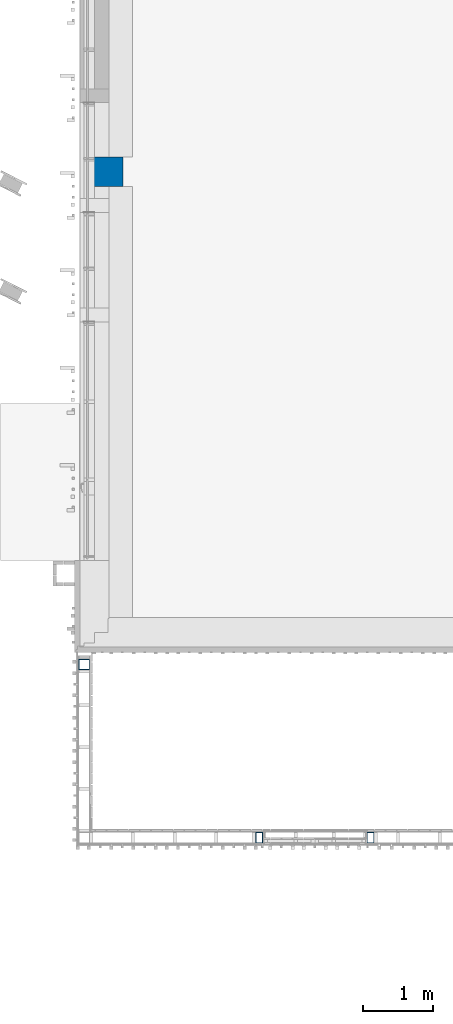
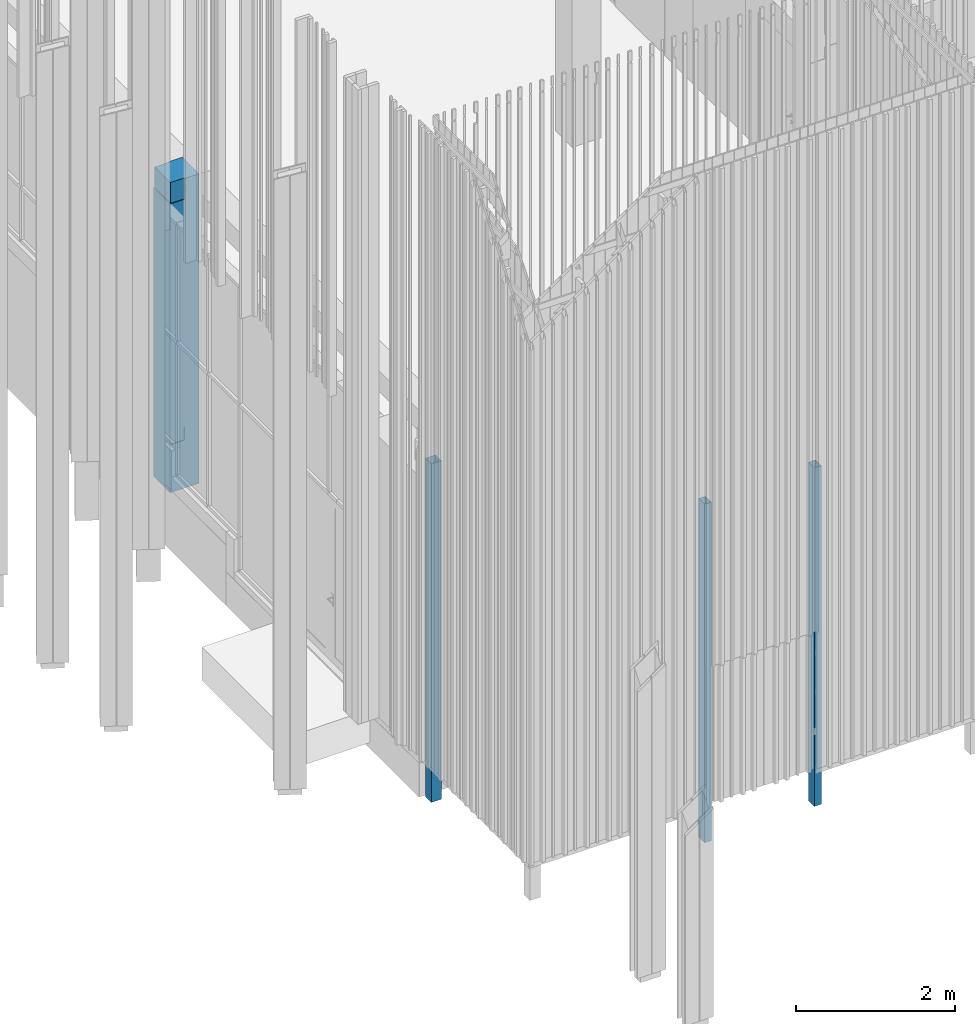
# One storey, part 73 of 390: 4 columns.
"""IFC2X3 building model written with IfcOpenShell, lengths in millimetres."""

import ifcopenshell
import ifcopenshell.guid

model = None  # the IFC model being written
_history = None  # IfcOwnerHistory: only IFC2X3 demands one
_inside = {}  # id of a spatial element -> (the spatial element, [elements in it])
_under = {}  # id of a project, library or spatial element -> (it, [spatial elements below it])
_declared = {}  # id of a project -> (the project, [libraries it declares])
_typed = {}  # id of a type object -> (the type object, [elements of that type])
_made_of = {}  # id of a material, layer set ... -> (it, [elements and type objects made of it])


def new_model(schema):
    """Start an empty IFC model of exactly this schema.

    Asked for "IFC4X3", IfcOpenShell would pick the latest addendum, in which some entities
    have other attributes; the version numbers below select the first issue.
    IFC2X3 requires an IfcOwnerHistory on every rooted entity: one is made here for all.
    """
    global model, _history
    if schema == "IFC4X3":
        model = ifcopenshell.file(schema_version=(4, 3, 0, 0))
    else:
        model = ifcopenshell.file(schema=schema)
    _inside.clear()
    _under.clear()
    _declared.clear()
    _typed.clear()
    _made_of.clear()
    _history = None
    if model.schema == "IFC2X3":
        org = make("IfcOrganization", Name="unknown")
        user = make(
            "IfcPersonAndOrganization",
            ThePerson=make("IfcPerson", FamilyName="unknown"),
            TheOrganization=org,
        )
        app = make(
            "IfcApplication",
            ApplicationDeveloper=org,
            Version="unknown",
            ApplicationFullName="unknown",
            ApplicationIdentifier="unknown",
        )
        _history = make(
            "IfcOwnerHistory",
            OwningUser=user,
            OwningApplication=app,
            ChangeAction="ADDED",
            CreationDate=0,
        )
    return model


def make(cls, **values):
    """One entity of the class cls with the attributes given. An attribute that is None is left unset."""
    return model.create_entity(
        cls, **{name: value for name, value in values.items() if value is not None}
    )


def entity(cls, *values):
    """Any entity or typed value of the class cls, its attributes in the order of the schema. None: left unset."""
    e = model.create_entity(cls)
    for i, value in enumerate(values):
        if value is not None:
            e[i] = value
    return e


def rooted(cls, **values):
    """An entity with a GlobalId (a new one), such as an element, a storey or a relation."""
    return make(cls, GlobalId=ifcopenshell.guid.new(), OwnerHistory=_history, **values)


def si_unit(unit_type, name, prefix=None):
    """IfcSIUnit, for example si_unit("LENGTHUNIT", "METRE", prefix="MILLI")."""
    return make("IfcSIUnit", UnitType=unit_type, Prefix=prefix, Name=name)


def converted_unit(unit_type, name, factor, base, dimensions=None, offset=None):
    """IfcConversionBasedUnit, such as the inch: factor (a typed value) times the base unit."""
    return make(
        "IfcConversionBasedUnit"
        if offset is None
        else "IfcConversionBasedUnitWithOffset",
        ConversionOffset=offset,
        Dimensions=None
        if dimensions is None
        else entity("IfcDimensionalExponents", *dimensions),
        UnitType=unit_type,
        Name=name,
        ConversionFactor=make(
            "IfcMeasureWithUnit", ValueComponent=factor, UnitComponent=base
        ),
    )


def derived_unit(unit_type, elements):
    """IfcDerivedUnit: a product of units, each with its exponent."""
    return make(
        "IfcDerivedUnit",
        Elements=[
            make("IfcDerivedUnitElement", Unit=unit, Exponent=power)
            for unit, power in elements
        ],
        UnitType=unit_type,
    )


def money_unit(currency):
    """IfcMonetaryUnit."""
    return make("IfcMonetaryUnit", Currency=currency)


def assignment(units):
    """IfcUnitAssignment: the units of a project."""
    return None if units is None else make("IfcUnitAssignment", Units=units)


def point(xyz):
    """IfcCartesianPoint."""
    return None if xyz is None else make("IfcCartesianPoint", Coordinates=xyz)


def direction(xyz):
    """IfcDirection."""
    return None if xyz is None else make("IfcDirection", DirectionRatios=xyz)


def frame(location, z_axis=None, x_axis=None):
    """IfcAxis2Placement3D, a coordinate frame: its origin and axes. An axis left out is left unset."""
    return make(
        "IfcAxis2Placement3D",
        Location=point(location),
        Axis=direction(z_axis),
        RefDirection=direction(x_axis),
    )


def origin_with_axes():
    """The frame at (0, 0, 0) with the z axis (0, 0, 1) and the x axis (1, 0, 0) written out."""
    return frame((0.0, 0.0, 0.0), z_axis=(0.0, 0.0, 1.0), x_axis=(1.0, 0.0, 0.0))


def place(relative_to, where):
    """IfcLocalPlacement: puts the frame where relative to a parent placement (None: the world)."""
    return make(
        "IfcLocalPlacement", PlacementRelTo=relative_to, RelativePlacement=where
    )


def context(
    kind, dimensions, precision=None, world=None, true_north=None, identifier=None
):
    """IfcGeometricRepresentationContext, for example the 3D "Model" context."""
    return make(
        "IfcGeometricRepresentationContext",
        ContextIdentifier=identifier,
        ContextType=kind,
        CoordinateSpaceDimension=dimensions,
        Precision=precision,
        WorldCoordinateSystem=world,
        TrueNorth=true_north,
    )


def subcontext(parent, identifier, kind, view, scale=None):
    """IfcGeometricRepresentationSubContext, for example "Body" below "Model"."""
    return make(
        "IfcGeometricRepresentationSubContext",
        ContextIdentifier=identifier,
        ContextType=kind,
        ParentContext=parent,
        TargetScale=scale,
        TargetView=view,
    )


def project(units=None, contexts=None):
    """IfcProject with its units and contexts."""
    return rooted(
        "IfcProject",
        Name="project",
        RepresentationContexts=contexts,
        UnitsInContext=assignment(units),
    )


def spatial(cls, under=None, at=None, **own):
    """A site, building, storey or space (cls), placed at a placement, below another one or the project."""
    s = rooted(cls, ObjectPlacement=at, **own)
    if under is not None:
        _under.setdefault(under.id(), (under, []))[1].append(s)
    return s


def faces_of(points, faces, orient=None, outer=None):
    """IfcFace entities. A face is a list of loops; a loop is a list of indices into points, from 0.

    orient and outer hold one flag for each loop. By default every Orientation is true, the
    first loop of a face is its IfcFaceOuterBound and the others are IfcFaceBound.
    """
    made = []
    for i, loops in enumerate(faces):
        bounds = []
        for j, loop in enumerate(loops):
            is_outer = j == 0 if outer is None else outer[i][j]
            bounds.append(
                make(
                    "IfcFaceOuterBound" if is_outer else "IfcFaceBound",
                    Bound=make("IfcPolyLoop", Polygon=[points[k] for k in loop]),
                    Orientation=True if orient is None else orient[i][j],
                )
            )
        made.append(make("IfcFace", Bounds=bounds))
    return made


def faceted_brep(points, faces, orient=None, outer=None, voids=None):
    """IfcFacetedBrep: a solid bounded by flat faces; with voids (closed shells), ...WithVoids."""
    shared = [point(p) for p in points]
    hull = make("IfcClosedShell", CfsFaces=faces_of(shared, faces, orient, outer))
    if voids is None:
        return make("IfcFacetedBrep", Outer=hull)
    return make(
        "IfcFacetedBrepWithVoids",
        Outer=hull,
        Voids=[
            make(cls, CfsFaces=faces_of(shared, fs, o, b)) for cls, fs, o, b in voids
        ],
    )


def shape(context_of_items, identifier, shape_type, items):
    """IfcShapeRepresentation: the items that make up one representation, for example the "Body"."""
    return make(
        "IfcShapeRepresentation",
        ContextOfItems=context_of_items,
        RepresentationIdentifier=identifier,
        RepresentationType=shape_type,
        Items=items,
    )


def material(Name=None, Category=None):
    """IfcMaterial."""
    return make("IfcMaterial", Name=Name, Category=Category)


def material_list(materials):
    """IfcMaterialList."""
    return make("IfcMaterialList", Materials=materials)


def made_of(thing, what):
    """Note that an element or type object is made of a material, layer set ...; save() writes the relation."""
    if what is not None:
        _made_of.setdefault(what.id(), (what, []))[1].append(thing)
    return thing


def type_object(cls, material=None, **own):
    """A type object (cls), such as IfcWallType, which elements share."""
    return made_of(rooted(cls, **own), material)


def element(
    cls,
    number,
    at=None,
    inside=None,
    cuts=None,
    type_object=None,
    material=None,
    context=None,
    identifier="Body",
    shape_type=None,
    held_by="IfcProductDefinitionShape",
    body=None,
    shapes=None,
    **own,
):
    """One element of the class cls, such as IfcWall. Its Tag is "e" and its number.

    at: its placement. inside: the storey or other place that contains it. cuts: it is an
    opening in that element (IfcRelVoidsElement). A single representation is given by context,
    identifier, shape_type and body (its items); several are given by shapes. held_by: the class
    of the entity that holds the representations. save() writes the other relations.
    """
    e = rooted(cls, Tag="e%d" % number, ObjectPlacement=at, **own)
    if body is not None:
        shapes = [shape(context, identifier, shape_type, body)]
    if shapes is not None:
        e.Representation = make(held_by, Representations=shapes)
    if inside is not None:
        _inside.setdefault(inside.id(), (inside, []))[1].append(e)
    if cuts is not None:
        rooted(
            "IfcRelVoidsElement", RelatingBuildingElement=cuts, RelatedOpeningElement=e
        )
    if type_object is not None:
        _typed.setdefault(type_object.id(), (type_object, []))[1].append(e)
    return made_of(e, material)


def aggregate(whole, parts):
    """IfcRelAggregates: a whole, such as a stair, and the parts it consists of."""
    return rooted("IfcRelAggregates", RelatingObject=whole, RelatedObjects=parts)


def save(model, path):
    """Write the relations noted so far, then the file.

    IfcRelAggregates (storeys below a building ...), IfcRelContainedInSpatialStructure (elements
    in a storey), IfcRelDefinesByType, IfcRelAssociatesMaterial and IfcRelDeclares: one each for
    every whole, place, type object, material and project.
    """
    for whole, parts in _under.values():
        aggregate(whole, parts)
    for where, things in _inside.values():
        rooted(
            "IfcRelContainedInSpatialStructure",
            RelatedElements=things,
            RelatingStructure=where,
        )
    for kind, things in _typed.values():
        rooted("IfcRelDefinesByType", RelatedObjects=things, RelatingType=kind)
    for what, things in _made_of.values():
        rooted("IfcRelAssociatesMaterial", RelatedObjects=things, RelatingMaterial=what)
    for by, libraries in _declared.values():
        rooted("IfcRelDeclares", RelatingContext=by, RelatedDefinitions=libraries)
    model.write(path)


model = new_model("IFC2X3")

# Units and contexts
model_context = context("Model", 3, precision=1e-05, world=origin_with_axes(), true_north=direction((0.0, 1.0)))
body_context = subcontext(model_context, "Body", "Model", "MODEL_VIEW")
ifc_project = project(units=[si_unit("LENGTHUNIT", "METRE", prefix="MILLI"), si_unit("AREAUNIT", "SQUARE_METRE"), si_unit("VOLUMEUNIT", "CUBIC_METRE"), converted_unit("PLANEANGLEUNIT", "DEGREE", entity("IfcPlaneAngleMeasure", 0.0174532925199), si_unit("PLANEANGLEUNIT", "RADIAN"), dimensions=[0, 0, 0, 0, 0, 0, 0]), si_unit("SOLIDANGLEUNIT", "STERADIAN"), money_unit("EUR"), converted_unit("TIMEUNIT", "Year", entity("IfcTimeMeasure", 31556926.0), si_unit("TIMEUNIT", "SECOND"), dimensions=[0, 0, 1, 0, 0, 0, 0]), si_unit("MASSUNIT", "GRAM", prefix="KILO"), si_unit("THERMODYNAMICTEMPERATUREUNIT", "DEGREE_CELSIUS"), si_unit("LUMINOUSINTENSITYUNIT", "LUMEN"), si_unit("ENERGYUNIT", "JOULE", prefix="MEGA"), derived_unit("THERMALCONDUCTANCEUNIT", [(si_unit("POWERUNIT", "WATT"), 1), (si_unit("LENGTHUNIT", "METRE"), -1), (si_unit("THERMODYNAMICTEMPERATUREUNIT", "KELVIN"), -1)]), derived_unit("SPECIFICHEATCAPACITYUNIT", [(si_unit("ENERGYUNIT", "JOULE"), 1), (si_unit("MASSUNIT", "GRAM", prefix="KILO"), -1), (si_unit("THERMODYNAMICTEMPERATUREUNIT", "KELVIN"), -1)]), derived_unit("MASSDENSITYUNIT", [(si_unit("MASSUNIT", "GRAM", prefix="KILO"), 1), (si_unit("VOLUMEUNIT", "CUBIC_METRE"), -1)])], contexts=[model_context])

# Site, building, storey
site_placement = place(None, origin_with_axes())
site = spatial("IfcSite", under=ifc_project, at=site_placement, Name="Site", CompositionType="ELEMENT")
building_placement = place(site_placement, origin_with_axes())
building = spatial("IfcBuilding", under=site, at=building_placement, Name="Building", CompositionType="ELEMENT")
storey_placement = place(building_placement, origin_with_axes())
storey = spatial("IfcBuildingStorey", under=building, at=storey_placement, Name="1 korrus", CompositionType="ELEMENT", Elevation=0.0)

# Columns
ifc_material_1 = material(Name="Betoon - Konstuktsioon")
ifc_material_2 = material(Name="Krohv - Lubjakivi")
ifc_material_list = material_list([ifc_material_1, ifc_material_2])
column_type = type_object("IfcColumnType", Name="Post", PredefinedType="NOTDEFINED")
column_1_placement = place(storey_placement, frame((122899.999996, 52170.0000066, -20.0), z_axis=(0.0, 0.0, 1.0), x_axis=(1.0, -8.97950352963e-09, 0.0)))
element("IfcColumn", 1, at=column_1_placement, inside=storey, type_object=column_type, material=ifc_material_list, Name="Betoon - Konstuktsioon", ObjectType="Betoon - Konstuktsioon 400 x 400", context=body_context, shape_type="Brep", body=[
    faceted_brep([(-199.999998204, -200.000001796, 0.0), (200.000001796, -199.999998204, 0.0), (200.000001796, -199.999998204, 4764.99999985), (-199.999998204, -200.000001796, 4764.99999985), (-200.000001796, 199.999998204, 0.0), (199.999998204, 200.000001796, 0.0), (199.999998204, 200.000001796, 4764.99999985), (-200.000001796, 199.999998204, 4764.99999985)], [[[0, 1, 2, 3]], [[0, 4, 5, 1]], [[1, 5, 6, 2]], [[3, 2, 6, 7]], [[4, 0, 3, 7]], [[5, 4, 7, 6]]]),
    faceted_brep([(-199.99999644, -200.000001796, 4444.99965396), (3.55973384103e-06, -200.0, 4444.99965396), (3.55973384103e-06, -200.0, 4764.99999985), (200.000001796, -199.999998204, 4764.99999985), (200.000001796, -199.999998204, 0.0), (-199.999998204, -200.000001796, 0.0), (-199.999998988, -200.000001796, 740.0), (1.01229602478e-06, -200.0, 740.0), (1.01229602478e-06, -200.0, 940.0), (-199.999998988, -200.000001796, 940.0), (-200.000000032, 199.999998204, 4444.99965408), (-3.20596882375e-08, 200.0, 4444.99965408), (-1.21858079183e-07, 210.0, 4444.99965408), (-210.000001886, 209.999998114, 4444.99965207), (-209.999998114, -210.000001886, 4444.99965207), (3.64953223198e-06, -210.0, 4444.99965396), (3.64953223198e-06, -210.0, 4764.99999985), (-1.21858079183e-07, 210.0, 4764.99999985), (-3.20596882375e-08, 200.0, 4764.99999985), (199.999998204, 200.000001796, 4764.99999985), (210.000001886, -209.999998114, 4764.99999985), (209.999998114, 210.000001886, 4764.99999985), (199.999998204, 200.000001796, 0.0), (210.000001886, -209.999998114, 0.0), (-209.999998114, -210.000001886, 0.0), (-210.000001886, 209.999998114, 0.0), (209.999998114, 210.000001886, 0.0), (-200.000001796, 199.999998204, 0.0), (-200.000002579, 199.999998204, 740.0), (-200.000002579, 199.999998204, 940.0), (-199.999998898, -210.000001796, 740.0), (1.10209441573e-06, -210.0, 740.0), (1.10209441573e-06, -210.0, 940.0), (-199.999998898, -210.000001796, 940.0), (-2.57949750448e-06, 200.0, 940.0), (-2.57949750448e-06, 200.0, 740.0), (-200.000002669, 209.999998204, 740.0), (-2.66929589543e-06, 210.0, 740.0), (-2.66929589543e-06, 210.0, 940.0), (-200.000002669, 209.999998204, 940.0)], [[[0, 1, 2, 3, 4, 5, 6, 7, 8, 9]], [[10, 11, 12, 13, 14, 15, 1, 0]], [[16, 2, 1, 15]], [[17, 18, 19, 3, 2, 16, 20, 21]], [[19, 22, 4, 3]], [[23, 24, 25, 26], [27, 5, 4, 22]], [[10, 0, 9, 6, 5, 27, 28, 29]], [[7, 6, 30, 31]], [[8, 7, 31, 32]], [[9, 8, 32, 33]], [[11, 10, 29, 34, 35, 28, 27, 22, 19, 18]], [[18, 17, 12, 11]], [[12, 17, 21, 26, 25, 13], [36, 37, 38, 39]], [[14, 13, 25, 24]], [[15, 14, 24, 23, 20, 16], [30, 33, 32, 31]], [[20, 23, 26, 21]], [[6, 9, 33, 30]], [[36, 39, 29, 28]], [[39, 38, 34, 29]], [[38, 37, 35, 34]], [[37, 36, 28, 35]]]),
])
ifc_material_3 = material(Name="Teras (musta värvi)")
for number, where, z_axis, x_axis, name in (
    (2, (125069.99996, 42599.000112, -500.0), (0.0, 0.0, 1.0), (-1.0, 0.0, 0.0), "Post - teras - RHS:150x100x5"),
    (3, (126669.99996, 42599.000112, -500.0), (0.0, 0.0, 1.0), (-1.0, 0.0, 0.0), "Post - teras - RHS:150x100x5"),
):
    element("IfcColumn", number, at=place(storey_placement, frame(where, z_axis=z_axis, x_axis=x_axis)), inside=storey, type_object=column_type, material=ifc_material_3, Name=name, ObjectType="150x100x5", context=body_context, shape_type="Brep", body=[
        faceted_brep([(-50.0, -75.0, 5210.0), (-50.0, -75.0, 0.0), (50.0, -75.0, 0.0), (50.0, -75.0, 5210.0), (-50.0, 75.0, 5210.0), (-50.0, 75.0, 0.0), (50.0, 75.0, 0.0), (-45.0, 70.0, 0.0), (-45.0, -70.0, 0.0), (45.0, -70.0, 0.0), (45.0, 70.0, 0.0), (50.0, 75.0, 5210.0), (45.0, -70.0, 5210.0), (-45.0, -70.0, 5210.0), (-45.0, 70.0, 5210.0), (45.0, 70.0, 5210.0)], [[[0, 1, 2, 3]], [[4, 5, 1, 0]], [[2, 1, 5, 6], [7, 8, 9, 10]], [[3, 2, 6, 11]], [[4, 0, 3, 11], [12, 13, 14, 15]], [[11, 6, 5, 4]], [[13, 8, 7, 14]], [[12, 9, 8, 13]], [[15, 10, 9, 12]], [[14, 7, 10, 15]]]),
    ])
column_2_placement = place(storey_placement, frame((122554.99996, 45089.0001117, -500.0), z_axis=(0.0, 0.0, 1.0), x_axis=(0.0, -1.0, 0.0)))
element("IfcColumn", 4, at=column_2_placement, inside=storey, type_object=column_type, material=ifc_material_3, Name="Post - teras - SHS:150x150x5", ObjectType="150x150x5", context=body_context, shape_type="Brep", body=[
    faceted_brep([(-75.0, -75.0, 5210.0), (-75.0, -75.0, 0.0), (75.0, -75.0, 0.0), (75.0, -75.0, 5210.0), (-75.0, 75.0, 5210.0), (-75.0, 75.0, 0.0), (75.0, 75.0, 0.0), (-70.0, 70.0, 0.0), (-70.0, -70.0, 0.0), (70.0, -70.0, 0.0), (70.0, 70.0, 0.0), (75.0, 75.0, 5210.0), (70.0, -70.0, 5210.0), (-70.0, -70.0, 5210.0), (-70.0, 70.0, 5210.0), (70.0, 70.0, 5210.0)], [[[0, 1, 2, 3]], [[4, 5, 1, 0]], [[2, 1, 5, 6], [7, 8, 9, 10]], [[3, 2, 6, 11]], [[4, 0, 3, 11], [12, 13, 14, 15]], [[11, 6, 5, 4]], [[13, 8, 7, 14]], [[12, 9, 8, 13]], [[15, 10, 9, 12]], [[14, 7, 10, 15]]]),
])

save(model, "model.ifc")
